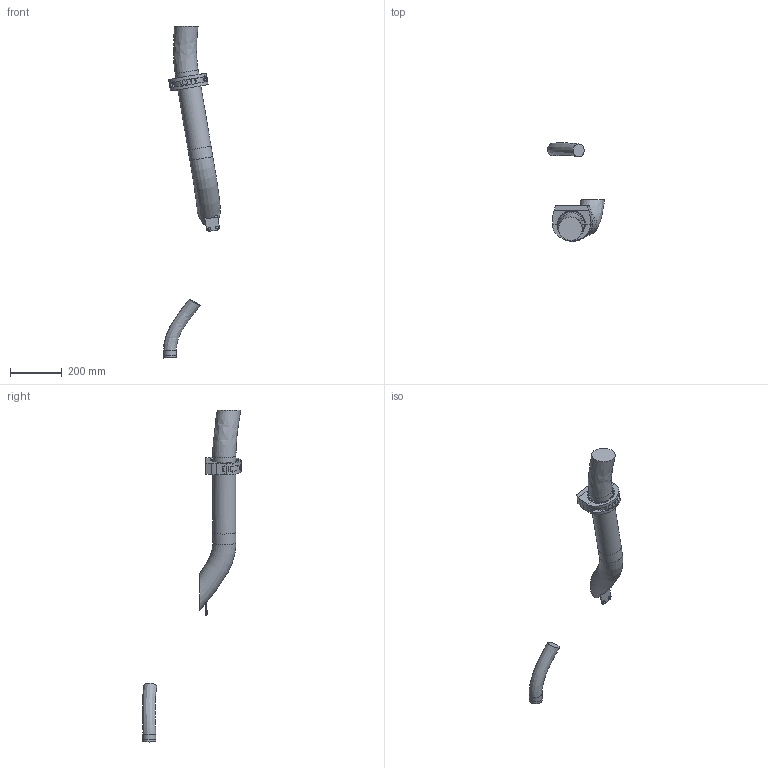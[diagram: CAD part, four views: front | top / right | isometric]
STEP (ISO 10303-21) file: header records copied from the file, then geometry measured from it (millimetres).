
FILE_DESCRIPTION (( 'STEP AP214' ), '1' );
FILE_NAME ('IRB77X0_All_OC_00_LINK02_CABLE.step', '2026-01-28T13:12:56', ( '' ), ( '' ), 'SwSTEP 2.0', 'SolidWorks 2024', '' );
FILE_SCHEMA (( 'AUTOMOTIVE_DESIGN' ));
Length unit declared in the file: millimetre
Products named in the file (1): IRB77X0_All_OC_00_LINK02_CABLE
Bounding box: 220.22 x 382.45 x 1285.35 mm (x, y, z)
Volume: 5681821.3 mm3; surface area: 313882.8 mm2
Topology: 2 solids, 2 shells, 130 faces, 321 edges, 210 vertices
Faces by surface type: plane 83, cylinder 29, bspline 9, sphere 5, cone 4
Full cylindrical faces by diameter (mm): 6 x2, 10.22 x2, 11 x2, 50 x1, 90 x2
Entity records: 19708 total; most frequent: CARTESIAN_POINT 15386, ORIENTED_EDGE 598, DIRECTION 541, EDGE_CURVE 299, VERTEX_POINT 202, AXIS2_PLACEMENT_3D 190, EDGE_LOOP 163, LINE 161
